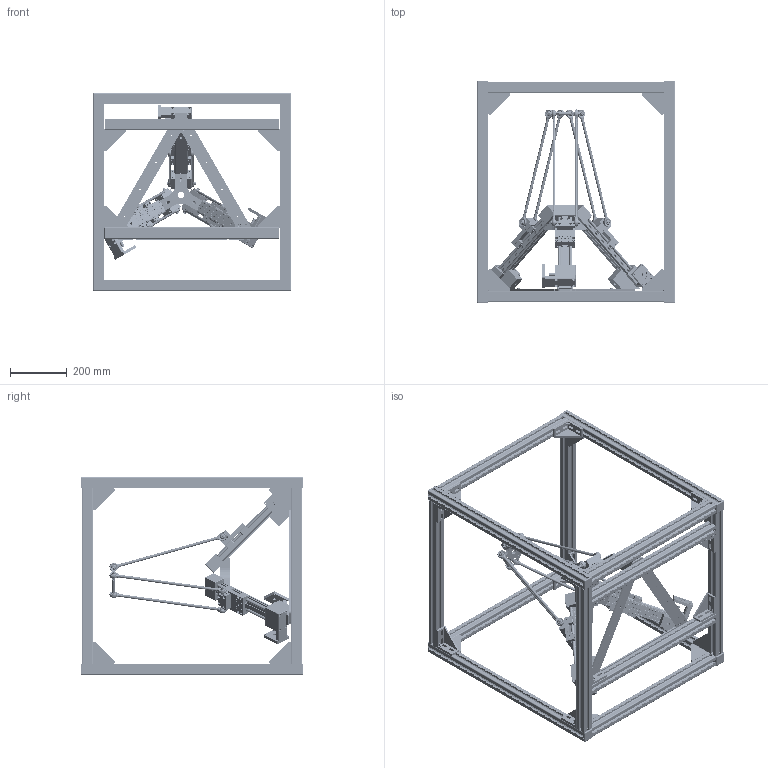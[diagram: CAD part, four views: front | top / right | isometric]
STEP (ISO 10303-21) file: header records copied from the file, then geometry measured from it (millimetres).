
FILE_DESCRIPTION(/* description */ ('DeltaRobot im Transportgestell, ohne Motoren'),/* implementation_level */ '2;1');
FILE_NAME(/* name */ 'I:\Gleitlager\Konstruktion\SERIE NEU (im Aufbau!!)\drylin E\Deltaroboter\Modelle\DLE-DR-0006\DLE-DR-0006.stp',/* time_stamp */ '2019-07-29T15:06:52+02:00',/* author */ ('fkoeching'),/* organization */ (''),/* preprocessor_version */ 'ST-DEVELOPER v17',/* originating_system */ 'Autodesk Inventor 2018',/* authorisation */ '');
FILE_SCHEMA (('AUTOMOTIVE_DESIGN { 1 0 10303 214 3 1 1 }'));
Products named in the file (63): DLE-DR-0006; ETY-DR-0008; ETY-DR-0013; DLE-DR-ZLW-0003; ZSX-104001; ZTL-104002; SAXT-104001; ZTL-10400S-V; SAWT-104002; NOR-10412; ZR-104001; ZR-104001-XX; ZSY-104002; NOR-10735; ZTF-104004; SAXT-104004; SAXT-104002; NOR-10614; ZTF-10400S-V; SAWT-104001; ZTY-104035; NOR-20901; JTEM-10; ZTZ-104009; NOR-10604; ZSA-104001-AL; ZSY-104001; WJ200UMA-01-10-AL; WMA-01-10-AL; WRZ-011007; J200UMA-01-10; NOR-10601; MF-1040-NEMA23-S; zty104004; ZTY-104010; DIN 7984 M6 x 16; ETY-DR-0011; ZWY-104001; ETY-DR-0010; ETY-DR-0009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
Assembly tree (254 placements, depth 5):
  DLE-DR-0006
    ETY-DR-0008
    ETY-DR-0013  x3
    DLE-DR-ZLW-0003  x3
      ZSX-104001
      ZTL-104002
        SAXT-104001
        SAXT-104002
        NOR-10614  x2
        ZTL-10400S-V
          SAWT-104002
          NOR-10412  x4
          NOR-10604  x4
          JTEM-10  x4
          NOR-20901  x2
          ZTY-104035  x2
        ZTZ-104009  x2
      ZR-104001
        ZR-104001-XX
        NOR-10735  x2
        ZSY-104002  x2
      ZTF-104004
        SAXT-104004
        SAXT-104002
        NOR-10614  x2
        ZTF-10400S-V
          JTEM-10  x4
          SAWT-104001
          ZTY-104035  x2
          NOR-20901  x2
        ZTZ-104009  x2
        NOR-10604  x2
      ZSA-104001-AL
        ZSY-104001
        WJ200UMA-01-10-AL  x4
          WMA-01-10-AL
          WRZ-011007
          J200UMA-01-10
        NOR-10601  x4
      MF-1040-NEMA23-S
        zty104004
        ZTY-104010
        DIN 7984 M6 x 16  x2
    ETY-DR-0011
    ZWY-104001  x3
    ETY-DR-0010  x3
    KDGM-10-A-ER-J   x6
      KARM-10 CL
        /D/KARM-10-CL-KDGM
        WKM-10-14
      Rohr 8-10
    ETY-DR-0012  x12
    ETY-DR-0009
    NOR-10737  x12
    NOR-20602  x6
    NOR-10514  x15
    NOR-10610  x3
    NOR-10628  x12
    NOR-11030  x12
    NOR-10513  x4
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Bounding box: 700 x 788 x 700 mm (x, y, z)
Volume: 9335990.2 mm3; surface area: 6945163.4 mm2
Topology: 381 solids, 381 shells, 17775 faces, 48192 edges, 31632 vertices
Faces by surface type: plane 10440, cylinder 4566, bspline 1152, cone 905, torus 470, sphere 242
Full cylindrical faces by diameter (mm): 2.5 x3, 3 x4, 3.2 x3, 3.242 x12, 3.5 x4, 4 x42, 4.134 x72, 4.2 x4, 4.459 x6, 4.5 x24, 4.917 x66, 5 x136, 5.3 x4, 5.4 x3, 5.5 x55, 5.6 x10, 6 x86, 6.2 x24, 6.6 x42, 6.647 x6, 7 x12, 7.2 x12, 8 x54, 8.5 x40, 9.43 x12, 9.5 x24, 10 x142, 10.2 x24, 10.5 x8, 11 x54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
Entity records: 105073 total; most frequent: CARTESIAN_POINT 26663, DIRECTION 16013, ORIENTED_EDGE 15644, EDGE_CURVE 7822, AXIS2_PLACEMENT_3D 5634, VERTEX_POINT 5196, LINE 4745, VECTOR 4745
